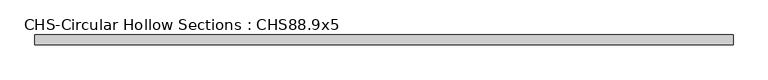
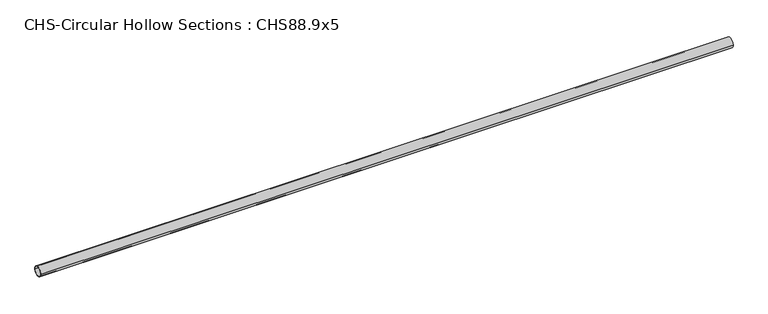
"""IFC4 building model written with IfcOpenShell, lengths in millimetres: beam geometry, CHS-Circular Hollow Sections : CHS88.9x5."""

import ifcopenshell
import ifcopenshell.guid

model = None  # the IFC model being written
_history = None  # IfcOwnerHistory: only IFC2X3 demands one
_inside = {}  # id of a spatial element -> (the spatial element, [elements in it])
_under = {}  # id of a project, library or spatial element -> (it, [spatial elements below it])
_declared = {}  # id of a project -> (the project, [libraries it declares])
_typed = {}  # id of a type object -> (the type object, [elements of that type])
_made_of = {}  # id of a material, layer set ... -> (it, [elements and type objects made of it])


def new_model(schema):
    """Start an empty IFC model of exactly this schema.

    Asked for "IFC4X3", IfcOpenShell would pick the latest addendum, in which some entities
    have other attributes; the version numbers below select the first issue.
    IFC2X3 requires an IfcOwnerHistory on every rooted entity: one is made here for all.
    """
    global model, _history
    if schema == "IFC4X3":
        model = ifcopenshell.file(schema_version=(4, 3, 0, 0))
    else:
        model = ifcopenshell.file(schema=schema)
    _inside.clear()
    _under.clear()
    _declared.clear()
    _typed.clear()
    _made_of.clear()
    _history = None
    if model.schema == "IFC2X3":
        org = make("IfcOrganization", Name="unknown")
        user = make(
            "IfcPersonAndOrganization",
            ThePerson=make("IfcPerson", FamilyName="unknown"),
            TheOrganization=org,
        )
        app = make(
            "IfcApplication",
            ApplicationDeveloper=org,
            Version="unknown",
            ApplicationFullName="unknown",
            ApplicationIdentifier="unknown",
        )
        _history = make(
            "IfcOwnerHistory",
            OwningUser=user,
            OwningApplication=app,
            ChangeAction="ADDED",
            CreationDate=0,
        )
    return model


def make(cls, **values):
    """One entity of the class cls with the attributes given. An attribute that is None is left unset."""
    return model.create_entity(
        cls, **{name: value for name, value in values.items() if value is not None}
    )


def rooted(cls, **values):
    """An entity with a GlobalId (a new one), such as an element, a storey or a relation."""
    return make(cls, GlobalId=ifcopenshell.guid.new(), OwnerHistory=_history, **values)


def si_unit(unit_type, name, prefix=None):
    """IfcSIUnit, for example si_unit("LENGTHUNIT", "METRE", prefix="MILLI")."""
    return make("IfcSIUnit", UnitType=unit_type, Prefix=prefix, Name=name)


def assignment(units):
    """IfcUnitAssignment: the units of a project."""
    return None if units is None else make("IfcUnitAssignment", Units=units)


def point(xyz):
    """IfcCartesianPoint."""
    return None if xyz is None else make("IfcCartesianPoint", Coordinates=xyz)


def direction(xyz):
    """IfcDirection."""
    return None if xyz is None else make("IfcDirection", DirectionRatios=xyz)


def frame(location, z_axis=None, x_axis=None):
    """IfcAxis2Placement3D, a coordinate frame: its origin and axes. An axis left out is left unset."""
    return make(
        "IfcAxis2Placement3D",
        Location=point(location),
        Axis=direction(z_axis),
        RefDirection=direction(x_axis),
    )


def frame_2d(location, x_axis=None):
    """IfcAxis2Placement2D, a coordinate frame in the plane: its origin and x axis."""
    return make(
        "IfcAxis2Placement2D", Location=point(location), RefDirection=direction(x_axis)
    )


def origin():
    """The frame at (0, 0, 0) with its axes left unset."""
    return frame((0.0, 0.0, 0.0))


def origin_2d():
    """The frame at (0, 0) in the plane with its x axis left unset."""
    return frame_2d((0.0, 0.0))


def place(relative_to, where):
    """IfcLocalPlacement: puts the frame where relative to a parent placement (None: the world)."""
    return make(
        "IfcLocalPlacement", PlacementRelTo=relative_to, RelativePlacement=where
    )


def context(
    kind, dimensions, precision=None, world=None, true_north=None, identifier=None
):
    """IfcGeometricRepresentationContext, for example the 3D "Model" context."""
    return make(
        "IfcGeometricRepresentationContext",
        ContextIdentifier=identifier,
        ContextType=kind,
        CoordinateSpaceDimension=dimensions,
        Precision=precision,
        WorldCoordinateSystem=world,
        TrueNorth=true_north,
    )


def project(units=None, contexts=None):
    """IfcProject with its units and contexts."""
    return rooted(
        "IfcProject",
        Name="project",
        RepresentationContexts=contexts,
        UnitsInContext=assignment(units),
    )


def spatial(cls, under=None, at=None, **own):
    """A site, building, storey or space (cls), placed at a placement, below another one or the project."""
    s = rooted(cls, ObjectPlacement=at, **own)
    if under is not None:
        _under.setdefault(under.id(), (under, []))[1].append(s)
    return s


def circle_curve(where, radius):
    """IfcCircle in the frame where."""
    return make("IfcCircle", Position=where, Radius=radius)


def trimmed(basis, trim1, trim2, sense, master):
    """IfcTrimmedCurve: the piece of a basis curve between two trims."""
    return make(
        "IfcTrimmedCurve",
        BasisCurve=basis,
        Trim1=trim1,
        Trim2=trim2,
        SenseAgreement=sense,
        MasterRepresentation=master,
    )


def segment(curve, same_sense, transition):
    """IfcCompositeCurveSegment."""
    return make(
        "IfcCompositeCurveSegment",
        Transition=transition,
        SameSense=same_sense,
        ParentCurve=curve,
    )


def composite_curve(segments, self_intersect=None):
    """IfcCompositeCurve: segments joined end to end."""
    return make("IfcCompositeCurve", Segments=segments, SelfIntersect=self_intersect)


def outline(outer, holes=None, kind="AREA"):
    """IfcArbitraryClosedProfileDef: a profile drawn as a closed curve; with holes, ...WithVoids."""
    if holes is None:
        return make("IfcArbitraryClosedProfileDef", ProfileType=kind, OuterCurve=outer)
    return make(
        "IfcArbitraryProfileDefWithVoids",
        ProfileType=kind,
        OuterCurve=outer,
        InnerCurves=holes,
    )


def extrude(swept, where, along, depth):
    """IfcExtrudedAreaSolid: the profile swept, set in the frame where, extruded along a direction by depth."""
    return make(
        "IfcExtrudedAreaSolid",
        SweptArea=swept,
        Position=where,
        ExtrudedDirection=direction(along),
        Depth=depth,
    )


def shape(context_of_items, identifier, shape_type, items):
    """IfcShapeRepresentation: the items that make up one representation, for example the "Body"."""
    return make(
        "IfcShapeRepresentation",
        ContextOfItems=context_of_items,
        RepresentationIdentifier=identifier,
        RepresentationType=shape_type,
        Items=items,
    )


def source(mapping_origin, context_of_items, identifier, shape_type, items):
    """IfcRepresentationMap: a shape defined once, which mapped items show again and again."""
    return make(
        "IfcRepresentationMap",
        MappingOrigin=mapping_origin,
        MappedRepresentation=shape(context_of_items, identifier, shape_type, items),
    )


def transform(
    local_origin,
    x_axis=None,
    y_axis=None,
    z_axis=None,
    scale=None,
    scale2=None,
    scale3=None,
    uniform=True,
):
    """IfcCartesianTransformationOperator3D, or its non-uniform kind. x_axis, y_axis, z_axis: its Axis1, 2, 3."""
    if uniform:
        return make(
            "IfcCartesianTransformationOperator3D",
            Axis1=direction(x_axis),
            Axis2=direction(y_axis),
            LocalOrigin=point(local_origin),
            Scale=scale,
            Axis3=direction(z_axis),
        )
    return make(
        "IfcCartesianTransformationOperator3DnonUniform",
        Axis1=direction(x_axis),
        Axis2=direction(y_axis),
        LocalOrigin=point(local_origin),
        Scale=scale,
        Axis3=direction(z_axis),
        Scale2=scale2,
        Scale3=scale3,
    )


def mapped(mapping_source, mapping_target):
    """IfcMappedItem: shows the shape of a source again, moved by a transform."""
    return make(
        "IfcMappedItem", MappingSource=mapping_source, MappingTarget=mapping_target
    )


def made_of(thing, what):
    """Note that an element or type object is made of a material, layer set ...; save() writes the relation."""
    if what is not None:
        _made_of.setdefault(what.id(), (what, []))[1].append(thing)
    return thing


def element(
    cls,
    number,
    at=None,
    inside=None,
    cuts=None,
    type_object=None,
    material=None,
    context=None,
    identifier="Body",
    shape_type=None,
    held_by="IfcProductDefinitionShape",
    body=None,
    shapes=None,
    **own,
):
    """One element of the class cls, such as IfcWall. Its Tag is "e" and its number.

    at: its placement. inside: the storey or other place that contains it. cuts: it is an
    opening in that element (IfcRelVoidsElement). A single representation is given by context,
    identifier, shape_type and body (its items); several are given by shapes. held_by: the class
    of the entity that holds the representations. save() writes the other relations.
    """
    e = rooted(cls, Tag="e%d" % number, ObjectPlacement=at, **own)
    if body is not None:
        shapes = [shape(context, identifier, shape_type, body)]
    if shapes is not None:
        e.Representation = make(held_by, Representations=shapes)
    if inside is not None:
        _inside.setdefault(inside.id(), (inside, []))[1].append(e)
    if cuts is not None:
        rooted(
            "IfcRelVoidsElement", RelatingBuildingElement=cuts, RelatedOpeningElement=e
        )
    if type_object is not None:
        _typed.setdefault(type_object.id(), (type_object, []))[1].append(e)
    return made_of(e, material)


def aggregate(whole, parts):
    """IfcRelAggregates: a whole, such as a stair, and the parts it consists of."""
    return rooted("IfcRelAggregates", RelatingObject=whole, RelatedObjects=parts)


def save(model, path):
    """Write the relations noted so far, then the file.

    IfcRelAggregates (storeys below a building ...), IfcRelContainedInSpatialStructure (elements
    in a storey), IfcRelDefinesByType, IfcRelAssociatesMaterial and IfcRelDeclares: one each for
    every whole, place, type object, material and project.
    """
    for whole, parts in _under.values():
        aggregate(whole, parts)
    for where, things in _inside.values():
        rooted(
            "IfcRelContainedInSpatialStructure",
            RelatedElements=things,
            RelatingStructure=where,
        )
    for kind, things in _typed.values():
        rooted("IfcRelDefinesByType", RelatedObjects=things, RelatingType=kind)
    for what, things in _made_of.values():
        rooted("IfcRelAssociatesMaterial", RelatedObjects=things, RelatingMaterial=what)
    for by, libraries in _declared.values():
        rooted("IfcRelDeclares", RelatingContext=by, RelatedDefinitions=libraries)
    model.write(path)


def chs_circular_hollow_sections_chs88_9x5_c747e93b(model_context):
    return source(origin(), model_context, "Body", "SweptSolid", [
        extrude(outline(composite_curve([segment(trimmed(circle_curve(origin_2d(), 44.45), [point((-44.45, 0.0))], [point((44.45, 0.0))], False, "CARTESIAN"), True, "CONTINUOUS"), segment(trimmed(circle_curve(origin_2d(), 44.45), [point((44.45, 0.0))], [point((-44.45, 0.0))], False, "CARTESIAN"), True, "CONTINUOUS")], self_intersect=False), holes=[composite_curve([segment(trimmed(circle_curve(origin_2d(), 39.45), [point((39.45, 0.0))], [point((-39.45, 0.0))], True, "CARTESIAN"), True, "CONTINUOUS"), segment(trimmed(circle_curve(origin_2d(), 39.45), [point((-39.45, 0.0))], [point((39.45, 0.0))], True, "CARTESIAN"), True, "CONTINUOUS")], self_intersect=False)]), frame((-2955.0, 0.0, 0.0), z_axis=(1.0, 0.0, 0.0), x_axis=(0.0, 1.0, 0.0)), (0.0, 0.0, 1.0), 6214.0),
    ])


if __name__ == "__main__":
    model = new_model("IFC4")
    model_context = context("Model", 3, world=origin())
    ifc_project = project(units=[si_unit("LENGTHUNIT", "METRE", prefix="MILLI")], contexts=[model_context])
    site = spatial("IfcSite", under=ifc_project)
    building = spatial("IfcBuilding", under=site)
    placement = place(None, origin())
    chs_circular_hollow_sections_chs88_9x5_shape = chs_circular_hollow_sections_chs88_9x5_c747e93b(model_context)
    element("IfcBeam", 1, ObjectType="CHS-Circular Hollow Sections : CHS88.9x5", at=placement, inside=building, context=model_context, shape_type="MappedRepresentation", body=[
        mapped(chs_circular_hollow_sections_chs88_9x5_shape, transform((0.0, 0.0, 0.0), x_axis=(1.0, 0.0, 0.0), y_axis=(0.0, 1.0, 0.0), z_axis=(0.0, 0.0, 1.0))),
    ])
    save(model, "model.ifc")
